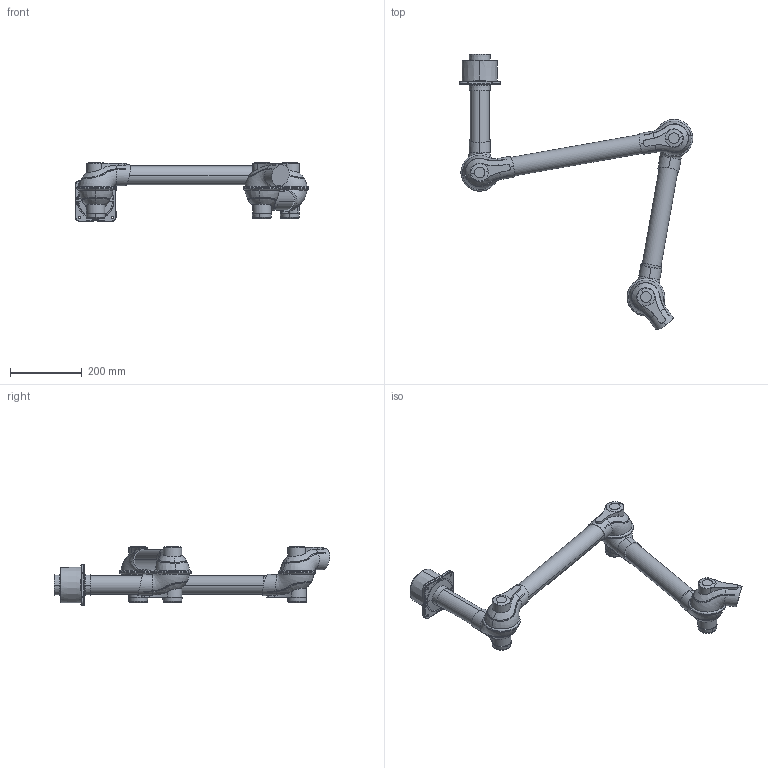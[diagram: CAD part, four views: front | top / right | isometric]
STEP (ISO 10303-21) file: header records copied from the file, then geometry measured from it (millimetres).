
FILE_DESCRIPTION((''),'2;1');
FILE_NAME('102205','2015-09-30T',('Tomas Bellgran'),(''),'PRO/ENGINEER BY PARAMETRIC TECHNOLOGY CORPORATION, 2013410','PRO/ENGINEER BY PARAMETRIC TECHNOLOGY CORPORATION, 2013410','');
FILE_SCHEMA(('AUTOMOTIVE_DESIGN { 1 0 10303 214 1 1 1 1 }'));
Length unit declared in the file: millimetre
Products named in the file (12): 100350; 102161; 102200; 102176; 102163; 102178; 102162; 102168; 105-5481; 101156; 102177; 102205
Assembly tree (18 placements, depth 4):
  102205
    102176
      100350
      102161
      102200
    102178
      102200  x2
      102163
    102168
      102162
      102200
    102177
      102200  x2
      101156
        105-5481
    101156  x2
      105-5481
Bounding box: 651.05 x 769.01 x 164.28 mm (x, y, z)
Volume: 5894227.6 mm3; surface area: 507001.8 mm2
Topology: 13 solids, 13 shells, 644 faces, 1546 edges, 945 vertices
Faces by surface type: bspline 240, plane 178, cone 111, cylinder 66, torus 28, sphere 21
Entity records: 27630 total; most frequent: CARTESIAN_POINT 13711, ORIENTED_EDGE 1500, DIRECTION 1036, PRESENTATION_STYLE_ASSIGNMENT 1033, STYLED_ITEM 1033, CURVE_STYLE 750, EDGE_CURVE 750, PROPERTY_DEFINITION 542
